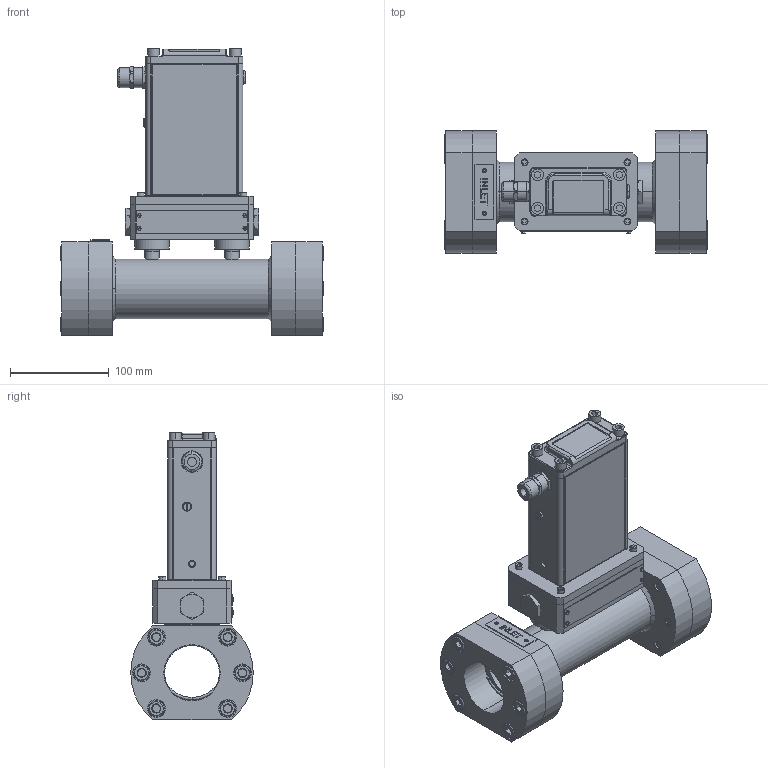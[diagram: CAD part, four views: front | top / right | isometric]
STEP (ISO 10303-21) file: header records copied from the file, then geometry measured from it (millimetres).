
FILE_DESCRIPTION (( 'STEP AP203' ), '1' );
FILE_NAME ('SLAMF64-S-2W-0-G-REVB.STEP', '2020-06-02T16:28:25', ( '' ), ( '' ), 'SwSTEP 2.0', 'SolidWorks 2019', '' );
FILE_SCHEMA (( 'CONFIG_CONTROL_DESIGN' ));
Length unit declared in the file: inch
Products named in the file (2): SLAMF64-S-2W-0-G-REVB
Bounding box: 265.4 x 124 x 291.04 mm (x, y, z)
Surface area: 492182.5 mm2 (no closed solid volume)
Topology: 0 solids, 97 shells, 1918 faces, 4384 edges, 2731 vertices
Faces by surface type: plane 728, cylinder 665, cone 440, bspline 85
Entity records: 57647 total; most frequent: CARTESIAN_POINT 13418, DIRECTION 9690, ORIENTED_EDGE 8692, EDGE_CURVE 4350, AXIS2_PLACEMENT_3D 3759, VERTEX_POINT 2731, EDGE_LOOP 2247, LINE 2172
